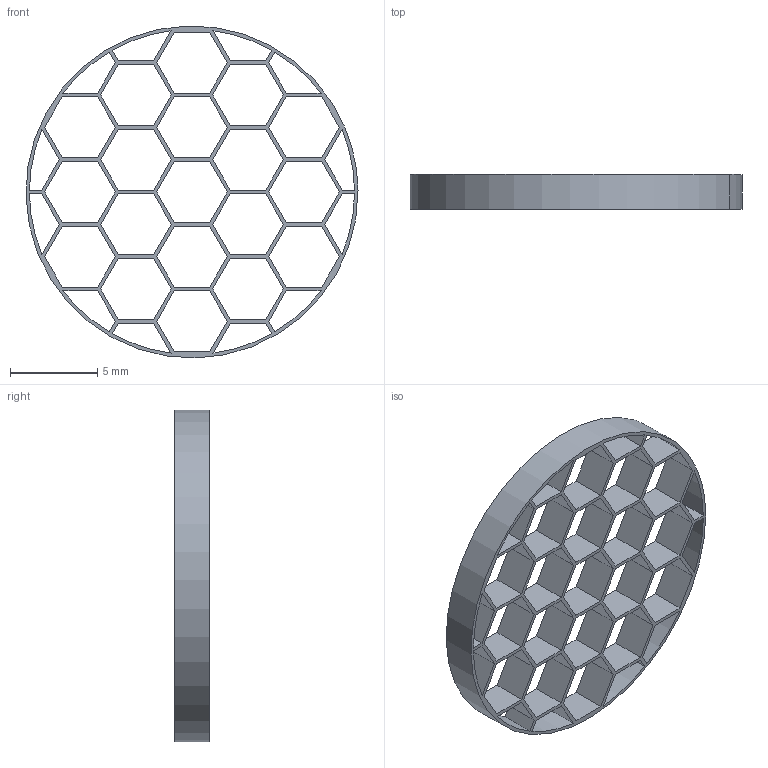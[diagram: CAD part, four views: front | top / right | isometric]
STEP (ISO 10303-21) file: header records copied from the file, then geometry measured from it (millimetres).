
FILE_DESCRIPTION((''),'2;1');
FILE_NAME('KC-0006-0228','2025-08-02T08:27:00',('YF-06'),(''),'CREO PARAMETRIC BY PTC INC, 2022073','CREO PARAMETRIC BY PTC INC, 2022073','');
FILE_SCHEMA(('CONFIG_CONTROL_DESIGN','SHAPE_APPEARANCE_LAYERS_GROUPS'));
Length unit declared in the file: millimetre
Products named in the file (1): KC-0006-0228
Bounding box: 19 x 2 x 18.99 mm (x, y, z)
Volume: 83.5 mm3; surface area: 862.1 mm2
Topology: 1 solids, 1 shells, 166 faces, 492 edges, 328 vertices
Faces by surface type: plane 152, cylinder 14
Entity records: 5683 total; most frequent: CARTESIAN_POINT 986, ORIENTED_EDGE 984, DIRECTION 852, EDGE_CURVE 492, VECTOR 464, LINE 464, VERTEX_POINT 328, EDGE_LOOP 228
